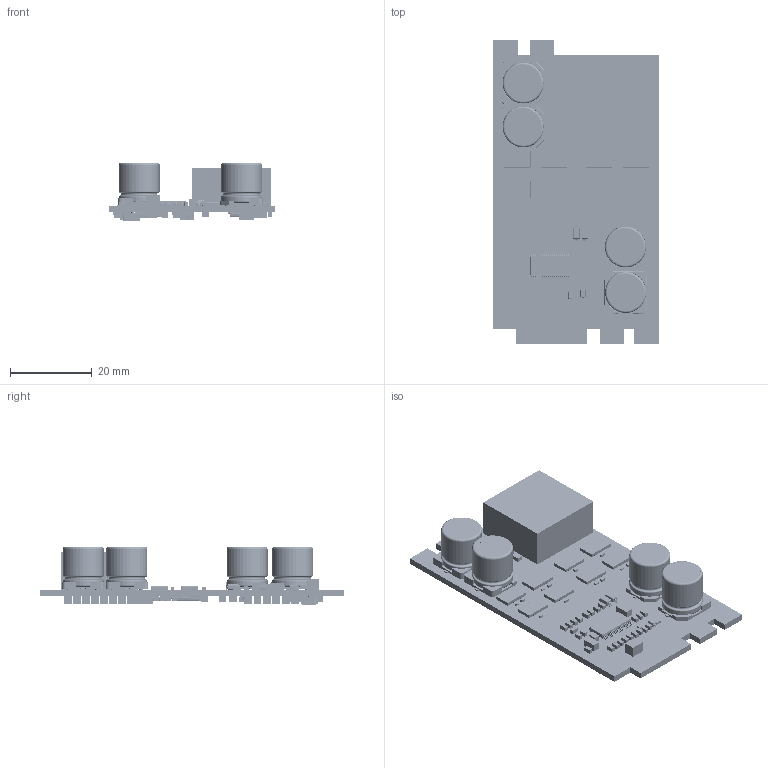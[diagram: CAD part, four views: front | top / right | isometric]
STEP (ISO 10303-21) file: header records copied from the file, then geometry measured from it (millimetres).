
FILE_DESCRIPTION(('Open CASCADE Model'),'2;1');
FILE_NAME('Open CASCADE Shape Model','2025-03-05T13:06:47',('Author'),( 'Open CASCADE'),'Open CASCADE STEP processor 7.5','Open CASCADE 7.5' ,'Unknown');
FILE_SCHEMA(('AUTOMOTIVE_DESIGN { 1 0 10303 214 1 1 1 1 }'));
Length unit declared in the file: millimetre
Products named in the file (224): PCB; Board; Open CASCADE STEP translator 7.5 1.1.1; CC51; 7029164320; Extruded; 7029164160; CC68; Cap_865081757008_SMT_CAP_10MM3_10MM3; Download_STP_86508xx570xx (rev1); capicitor_10x10.5x4.5; Base_Φ10Capacitor; CC67; QC2; IC_LMG3100R017_VQFN-FCRLF15; body; pins; logo; die; QC1; CC66; 7029170720; 7029170560; CC65; CC64; CC63; RC6; Res_JR0805X35E_0805; Black; White; Green; Pins; Ohmite Logo-LAPTOP-NQA1DCQ3; D1; SOD-323; R6; R5; UC1; IC_LM5177DCPR_HTSSOP38; RC27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
Assembly tree (504 placements, depth 5):
  PCB
    Board
      Open CASCADE STEP translator 7.5 1.1.1
    CC51
      7029164320  x2
        Extruded
      7029164160
        Extruded
    CC68
      Cap_865081757008_SMT_CAP_10MM3_10MM3
        Download_STP_86508xx570xx (rev1)
          capicitor_10x10.5x4.5
          Base_Φ10Capacitor
    CC67
      Cap_865081757008_SMT_CAP_10MM3_10MM3
        Download_STP_86508xx570xx (rev1)
          capicitor_10x10.5x4.5
          Base_Φ10Capacitor
    QC2
      IC_LMG3100R017_VQFN-FCRLF15
        body
        pins
        logo
        die
    QC1
      IC_LMG3100R017_VQFN-FCRLF15
        body
        pins
        logo
        die
    CC66
      7029170720  x2
        Extruded
      7029170560
        Extruded
    CC65
      7029170720  x2
        Extruded
      7029170560
        Extruded
    CC64
      7029170720  x2
        Extruded
      7029170560
        Extruded
    CC63
      7029170720  x2
        Extruded
      7029170560
        Extruded
    RC6
      Res_JR0805X35E_0805
        Black
        White
        Green
        Pins
        Ohmite Logo-LAPTOP-NQA1DCQ3
    D1
      SOD-323
    R6
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Bounding box: 40.5 x 74.05 x 14.2 mm (x, y, z)
Volume: 11979.3 mm3; surface area: 14647.6 mm2
Topology: 849 solids, 849 shells, 16790 faces, 44287 edges, 29248 vertices
Faces by surface type: plane 12039, bspline 2420, cylinder 2048, sphere 224, torus 56, cone 3
Full cylindrical faces by diameter (mm): 0.16 x8, 0.212 x1, 0.4 x3, 1 x24, 1.2 x8, 1.25 x4, 1.45 x4, 2.45 x4, 2.65 x4, 3.65 x4, 3.85 x4, 7 x4, 8.9 x4, 10 x8
Entity records: 157196 total; most frequent: CARTESIAN_POINT 38409, ORIENTED_EDGE 24296, DIRECTION 20561, EDGE_CURVE 12148, LINE 9071, VECTOR 9071, VERTEX_POINT 8013, AXIS2_PLACEMENT_3D 5745
